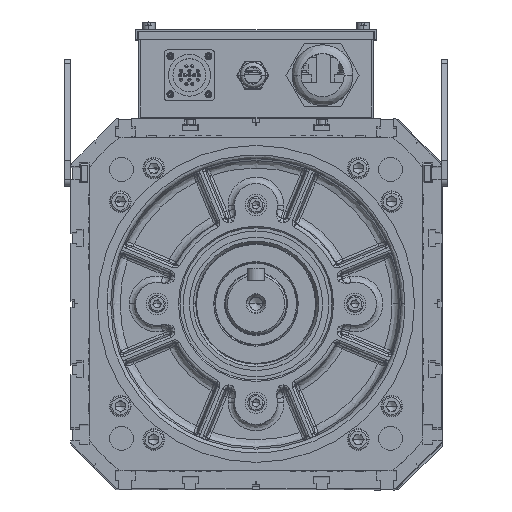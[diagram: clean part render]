
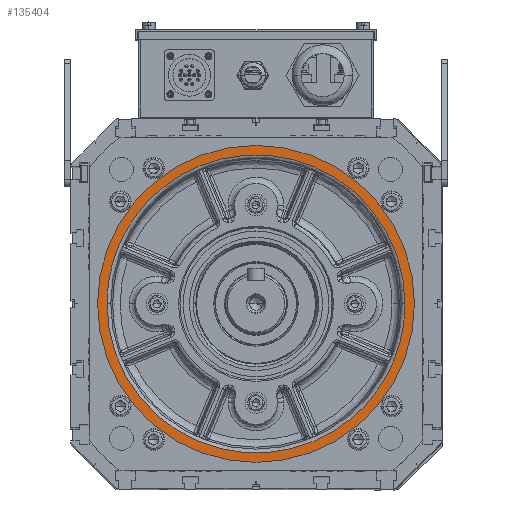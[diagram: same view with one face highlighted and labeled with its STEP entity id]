
A CAD part, top view. The second image highlights one B-rep face of the part: STEP entity #135404.
In plain terms, the highlighted planar face has unit normal (0, 0, 1) as drawn and (0, 0, -1) by its records, which use the part's own axes.
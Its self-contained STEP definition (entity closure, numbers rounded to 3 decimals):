
#2867 = CARTESIAN_POINT ( 'NONE',  ( 183.202, 5.856, 132.5 ) ) ;
#19394 = PLANE ( 'NONE',  #63850 ) ;
#20118 = CARTESIAN_POINT ( 'NONE',  ( 175.72, -229.179, 132.5 ) ) ;
#20958 = CARTESIAN_POINT ( 'NONE',  ( 58.202, 130.856, 132.5 ) ) ;
#30851 = AXIS2_PLACEMENT_3D ( 'NONE', #66909, #114476, #54979 ) ;
#35388 = CARTESIAN_POINT ( 'NONE',  ( -66.798, 5.856, 132.5 ) ) ;
#37555 = EDGE_CURVE ( 'NONE', #115227, #114860, #100235, .T. ) ;
#41016 = CARTESIAN_POINT ( 'NONE',  ( 58.202, 5.856, 132.5 ) ) ;
#52416 = VERTEX_POINT ( 'NONE', #83065 ) ;
#53113 = EDGE_CURVE ( 'NONE', #82645, #52416, #53746, .T. ) ;
#53474 = DIRECTION ( 'NONE',  ( 0., 0., 1. ) ) ;
#53746 =( BOUNDED_CURVE ( )  B_SPLINE_CURVE ( 3, ( #55345, #20118, #151063, #138151 ),
 .UNSPECIFIED., .F., .T. ) 
 B_SPLINE_CURVE_WITH_KNOTS ( ( 4, 4 ),
 ( 0., 1. ),
 .UNSPECIFIED. ) 
 CURVE ( )  GEOMETRIC_REPRESENTATION_ITEM ( )  RATIONAL_B_SPLINE_CURVE ( ( 1., 0.333, 0.333, 1. ) ) 
 REPRESENTATION_ITEM ( '' )  );
#54979 = DIRECTION ( 'NONE',  ( -1., 0., 0. ) ) ;
#55345 = CARTESIAN_POINT ( 'NONE',  ( 175.72, 5.856, 132.5 ) ) ;
#57677 = ORIENTED_EDGE ( 'NONE', *, *, #69832, .F. ) ;
#63850 = AXIS2_PLACEMENT_3D ( 'NONE', #20958, #149892, #67548 ) ;
#64844 = DIRECTION ( 'NONE',  ( -1., 0., 0. ) ) ;
#66909 = CARTESIAN_POINT ( 'NONE',  ( 58.202, 5.856, 132.5 ) ) ;
#67548 = DIRECTION ( 'NONE',  ( 1., 0., 0. ) ) ;
#68549 = CIRCLE ( 'NONE', #68932, 125. ) ;
#68711 = CARTESIAN_POINT ( 'NONE',  ( 175.72, 5.856, 132.5 ) ) ;
#68932 = AXIS2_PLACEMENT_3D ( 'NONE', #41016, #53474, #64844 ) ;
#69832 = EDGE_CURVE ( 'NONE', #52416, #82645, #147449, .T. ) ;
#72681 = EDGE_CURVE ( 'NONE', #114860, #115227, #68549, .T. ) ;
#75015 = ORIENTED_EDGE ( 'NONE', *, *, #37555, .F. ) ;
#79566 = CARTESIAN_POINT ( 'NONE',  ( -59.315, 240.89, 132.5 ) ) ;
#82645 = VERTEX_POINT ( 'NONE', #116984 ) ;
#83065 = CARTESIAN_POINT ( 'NONE',  ( -59.315, 5.856, 132.5 ) ) ;
#91833 = ORIENTED_EDGE ( 'NONE', *, *, #72681, .F. ) ;
#91966 = CARTESIAN_POINT ( 'NONE',  ( 175.72, 240.89, 132.5 ) ) ;
#93044 = EDGE_LOOP ( 'NONE', ( #93290, #57677 ) ) ;
#93290 = ORIENTED_EDGE ( 'NONE', *, *, #53113, .F. ) ;
#100235 = CIRCLE ( 'NONE', #30851, 125. ) ;
#114476 = DIRECTION ( 'NONE',  ( 0., 0., 1. ) ) ;
#114860 = VERTEX_POINT ( 'NONE', #2867 ) ;
#115227 = VERTEX_POINT ( 'NONE', #35388 ) ;
#115442 = FACE_BOUND ( 'NONE', #93044, .T. ) ;
#116984 = CARTESIAN_POINT ( 'NONE',  ( 175.72, 5.856, 132.5 ) ) ;
#119191 = FACE_OUTER_BOUND ( 'NONE', #134756, .T. ) ;
#127708 = CARTESIAN_POINT ( 'NONE',  ( -59.315, 5.856, 132.5 ) ) ;
#134756 = EDGE_LOOP ( 'NONE', ( #75015, #91833 ) ) ;
#135404 = ADVANCED_FACE ( 'NONE', ( #119191, #115442 ), #19394, .F. ) ;
#138151 = CARTESIAN_POINT ( 'NONE',  ( -59.315, 5.856, 132.5 ) ) ;
#147449 =( BOUNDED_CURVE ( )  B_SPLINE_CURVE ( 3, ( #127708, #79566, #91966, #68711 ),
 .UNSPECIFIED., .F., .F. ) 
 B_SPLINE_CURVE_WITH_KNOTS ( ( 4, 4 ),
 ( 0., 1. ),
 .UNSPECIFIED. ) 
 CURVE ( )  GEOMETRIC_REPRESENTATION_ITEM ( )  RATIONAL_B_SPLINE_CURVE ( ( 1., 0.333, 0.333, 1. ) ) 
 REPRESENTATION_ITEM ( '' )  );
#149892 = DIRECTION ( 'NONE',  ( 0., 0., 1. ) ) ;
#151063 = CARTESIAN_POINT ( 'NONE',  ( -59.315, -229.179, 132.5 ) ) ;
